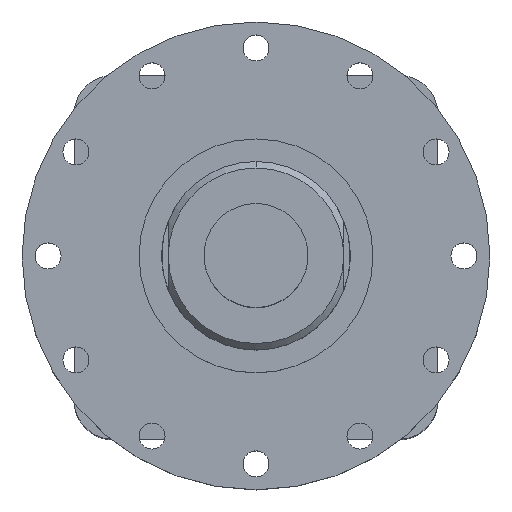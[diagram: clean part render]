
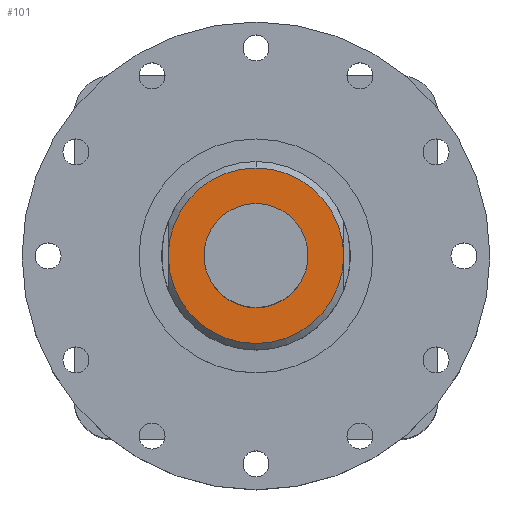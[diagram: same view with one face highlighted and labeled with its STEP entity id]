
A CAD part, top view. The second image highlights one B-rep face of the part: STEP entity #101.
In plain terms, the highlighted planar face has unit normal (0, 0, 1).
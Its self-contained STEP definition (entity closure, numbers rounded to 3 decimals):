
#93 = DIRECTION ( 'NONE',  ( -1., 0., 0. ) ) ;
#100 = EDGE_CURVE ( 'NONE', #231, #4703, #11220, .T. ) ;
#101 = ADVANCED_FACE ( 'NONE', ( #4437, #4709 ), #7208, .T. ) ;
#231 = VERTEX_POINT ( 'NONE', #5645 ) ;
#814 = DIRECTION ( 'NONE',  ( 0., 0., 1. ) ) ;
#1031 = CARTESIAN_POINT ( 'NONE',  ( 0., 0., 80. ) ) ;
#1041 = AXIS2_PLACEMENT_3D ( 'NONE', #1031, #9436, #93 ) ;
#1259 = EDGE_LOOP ( 'NONE', ( #4360, #5465, #5610 ) ) ;
#1820 = AXIS2_PLACEMENT_3D ( 'NONE', #12001, #9216, #3602 ) ;
#2846 = VERTEX_POINT ( 'NONE', #10480 ) ;
#3147 = CARTESIAN_POINT ( 'NONE',  ( -40., 0., 80. ) ) ;
#3450 = DIRECTION ( 'NONE',  ( -1., 0., 0. ) ) ;
#3602 = DIRECTION ( 'NONE',  ( -1., 0., 0. ) ) ;
#3872 = DIRECTION ( 'NONE',  ( 0., 0., -1. ) ) ;
#4256 = CARTESIAN_POINT ( 'NONE',  ( 0., 67.5, 80. ) ) ;
#4360 = ORIENTED_EDGE ( 'NONE', *, *, #7140, .F. ) ;
#4382 = VERTEX_POINT ( 'NONE', #6334 ) ;
#4437 = FACE_OUTER_BOUND ( 'NONE', #1259, .T. ) ;
#4703 = VERTEX_POINT ( 'NONE', #4256 ) ;
#4709 = FACE_BOUND ( 'NONE', #6322, .T. ) ;
#4713 = DIRECTION ( 'NONE',  ( -1., 0., 0. ) ) ;
#5151 = EDGE_CURVE ( 'NONE', #2846, #9252, #11222, .T. ) ;
#5404 = CARTESIAN_POINT ( 'NONE',  ( 0., 0., 80. ) ) ;
#5465 = ORIENTED_EDGE ( 'NONE', *, *, #8295, .F. ) ;
#5560 = AXIS2_PLACEMENT_3D ( 'NONE', #8621, #3872, #4713 ) ;
#5610 = ORIENTED_EDGE ( 'NONE', *, *, #100, .F. ) ;
#5645 = CARTESIAN_POINT ( 'NONE',  ( -67.5, 0., 80. ) ) ;
#6322 = EDGE_LOOP ( 'NONE', ( #12008, #12031 ) ) ;
#6334 = CARTESIAN_POINT ( 'NONE',  ( 0., -67.5, 80. ) ) ;
#7085 = AXIS2_PLACEMENT_3D ( 'NONE', #5404, #10173, #3450 ) ;
#7140 = EDGE_CURVE ( 'NONE', #4382, #231, #8357, .T. ) ;
#7187 = EDGE_CURVE ( 'NONE', #9252, #2846, #9399, .T. ) ;
#7208 = PLANE ( 'NONE',  #8330 ) ;
#8263 = CARTESIAN_POINT ( 'NONE',  ( 0., 0., 80. ) ) ;
#8295 = EDGE_CURVE ( 'NONE', #4703, #4382, #10939, .T. ) ;
#8330 = AXIS2_PLACEMENT_3D ( 'NONE', #8263, #814, #10011 ) ;
#8357 = CIRCLE ( 'NONE', #1820, 67.5 ) ;
#8621 = CARTESIAN_POINT ( 'NONE',  ( 0., 0., 80. ) ) ;
#9216 = DIRECTION ( 'NONE',  ( 0., 0., -1. ) ) ;
#9252 = VERTEX_POINT ( 'NONE', #3147 ) ;
#9257 = DIRECTION ( 'NONE',  ( 0., 0., -1. ) ) ;
#9399 = CIRCLE ( 'NONE', #11116, 40. ) ;
#9436 = DIRECTION ( 'NONE',  ( 0., 0., -1. ) ) ;
#10011 = DIRECTION ( 'NONE',  ( 1., 0., 0. ) ) ;
#10123 = CARTESIAN_POINT ( 'NONE',  ( 0., 0., 80. ) ) ;
#10173 = DIRECTION ( 'NONE',  ( 0., 0., -1. ) ) ;
#10219 = DIRECTION ( 'NONE',  ( -1., 0., 0. ) ) ;
#10480 = CARTESIAN_POINT ( 'NONE',  ( 40., 0., 80. ) ) ;
#10939 = CIRCLE ( 'NONE', #1041, 67.5 ) ;
#11116 = AXIS2_PLACEMENT_3D ( 'NONE', #10123, #9257, #10219 ) ;
#11220 = CIRCLE ( 'NONE', #7085, 67.5 ) ;
#11222 = CIRCLE ( 'NONE', #5560, 40. ) ;
#12001 = CARTESIAN_POINT ( 'NONE',  ( 0., 0., 80. ) ) ;
#12008 = ORIENTED_EDGE ( 'NONE', *, *, #7187, .T. ) ;
#12031 = ORIENTED_EDGE ( 'NONE', *, *, #5151, .T. ) ;
